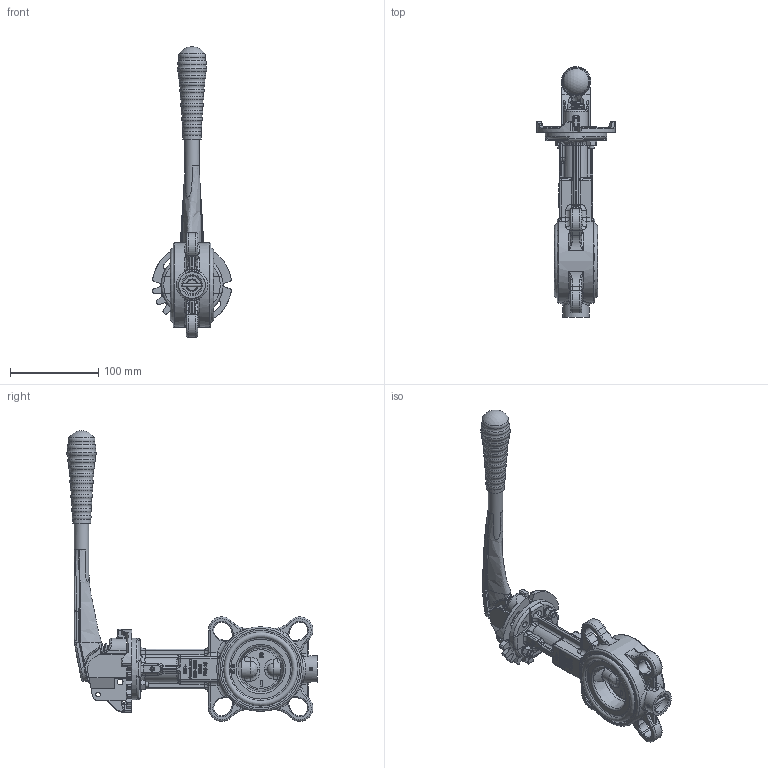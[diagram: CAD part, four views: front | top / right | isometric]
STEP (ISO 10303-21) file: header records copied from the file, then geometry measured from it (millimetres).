
FILE_DESCRIPTION((''),'2;1');
FILE_NAME('K:\Inventor\1 Artikel\10) Absperrklappen\10a) manuell\ABO Valve\890-GGG, 994B\890-GGG, DN50\890-GGG, DN50, 3D\890-GGG, DN50, PN6-16, HH, 3D.stp','2019-08-13T10:44:51',('claudia'),(''),'Autodesk Inventor 2013','Autodesk Inventor 2013','');
FILE_SCHEMA(('AUTOMOTIVE_DESIGN { 1 0 10303 214 1 1 1 1 }'));
Length unit declared in the file: millimetre
Products named in the file (1): Bauteil1
Bounding box: 89.17 x 283.75 x 329.34 mm (x, y, z)
Surface area: 141021.4 mm2
Topology: 11 solids, 12 shells, 2241 faces, 5878 edges, 3662 vertices
Faces by surface type: bspline 766, plane 745, cylinder 392, torus 225, cone 87, sphere 26
Full cylindrical faces by diameter (mm): 3.85 x1, 4 x2, 4.2 x1, 5 x2, 5.5 x2, 6 x4, 6.3 x2, 6.4 x2, 6.5 x2, 7 x4, 8.9 x2, 9.5 x1, 11.3 x2, 12 x5, 12.5 x1, 12.75 x2, 16 x4, 16.05 x1, 16.5 x2, 19 x1, 19.8 x1, 20 x1, 20.5 x1, 22 x2, 22.5 x1, 25 x1, 30 x1, 36 x1, 70 x1, 82.136 x2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
Entity records: 100616 total; most frequent: CARTESIAN_POINT 51578, ORIENTED_EDGE 11194, DIRECTION 7946, EDGE_CURVE 5599, VERTEX_POINT 3595, AXIS2_PLACEMENT_3D 2856, EDGE_LOOP 2505, FACE_OUTER_BOUND 2241
